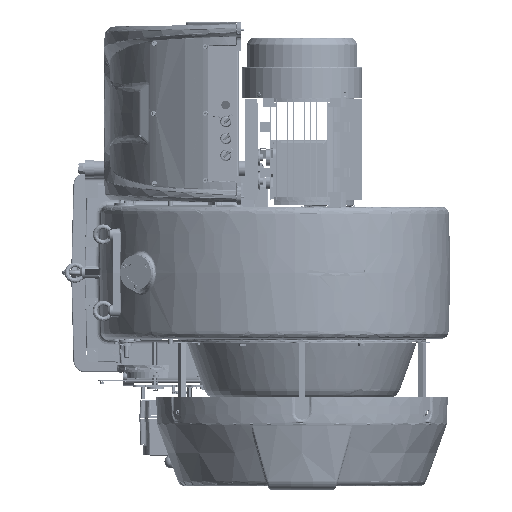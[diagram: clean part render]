
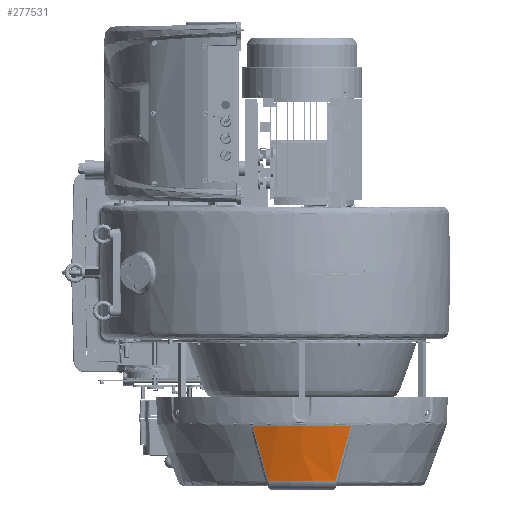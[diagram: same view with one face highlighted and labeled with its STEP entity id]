
A CAD part, left-side view. The second image highlights one B-rep face of the part: STEP entity #277531.
In plain terms, the highlighted conical face has half-angle 11 degrees and reference radius 194.38 mm.
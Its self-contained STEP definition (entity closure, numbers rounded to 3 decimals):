
#9513 = B_SPLINE_CURVE_WITH_KNOTS ( 'NONE', 3,
 ( #319366, #49375, #259732, #141530 ),
 .UNSPECIFIED., .F., .F.,
 ( 4, 4 ),
 ( 0., 1. ),
 .UNSPECIFIED. ) ;
#32359 = CARTESIAN_POINT ( 'NONE',  ( 0., 0., -1342.371 ) ) ;
#32916 = EDGE_CURVE ( 'NONE', #105743, #78394, #244552, .T. ) ;
#49375 = CARTESIAN_POINT ( 'NONE',  ( -349.804, 114.58, -449.603 ) ) ;
#49965 = EDGE_CURVE ( 'NONE', #239913, #247055, #338934, .T. ) ;
#61808 = ORIENTED_EDGE ( 'NONE', *, *, #49965, .T. ) ;
#64302 = EDGE_CURVE ( 'NONE', #78394, #239913, #9513, .T. ) ;
#78394 = VERTEX_POINT ( 'NONE', #345829 ) ;
#81586 = CARTESIAN_POINT ( 'NONE',  ( -338.389, -88.294, -543.224 ) ) ;
#82882 = CARTESIAN_POINT ( 'NONE',  ( -344.981, -59.265, -543.224 ) ) ;
#93843 = EDGE_CURVE ( 'NONE', #105743, #247055, #304429, .T. ) ;
#98773 = CARTESIAN_POINT ( 'NONE',  ( -355.092, -128.553, -399.554 ) ) ;
#105743 = VERTEX_POINT ( 'NONE', #98773 ) ;
#117355 = ORIENTED_EDGE ( 'NONE', *, *, #93843, .F. ) ;
#119649 = CARTESIAN_POINT ( 'NONE',  ( -349.747, -114.429, -450.143 ) ) ;
#123509 = CARTESIAN_POINT ( 'NONE',  ( -338.389, -88.294, -543.224 ) ) ;
#141306 = CARTESIAN_POINT ( 'NONE',  ( -338.389, 88.294, -543.224 ) ) ;
#141530 = CARTESIAN_POINT ( 'NONE',  ( -338.389, 88.294, -543.224 ) ) ;
#153745 = CARTESIAN_POINT ( 'NONE',  ( -338.389, 88.294, -543.224 ) ) ;
#170055 = EDGE_LOOP ( 'NONE', ( #117355, #380918, #256128, #61808 ) ) ;
#172337 = CARTESIAN_POINT ( 'NONE',  ( -342.145, -73.9, -543.224 ) ) ;
#180335 = CONICAL_SURFACE ( 'NONE', #361900, 194.38, 0.192 ) ;
#192140 = CARTESIAN_POINT ( 'NONE',  ( 0., 0., -399.554 ) ) ;
#198441 = CARTESIAN_POINT ( 'NONE',  ( -348.768, -29.753, -543.224 ) ) ;
#222090 = DIRECTION ( 'NONE',  ( 0., 0., -1. ) ) ;
#236498 = CARTESIAN_POINT ( 'NONE',  ( -344.15, -101.008, -498.033 ) ) ;
#239913 = VERTEX_POINT ( 'NONE', #153745 ) ;
#244552 = CIRCLE ( 'NONE', #277029, 377.645 ) ;
#246510 = DIRECTION ( 'NONE',  ( 0.866, 0.5, 0. ) ) ;
#247055 = VERTEX_POINT ( 'NONE', #365130 ) ;
#251902 = DIRECTION ( 'NONE',  ( -0.866, -0.5, 0. ) ) ;
#256128 = ORIENTED_EDGE ( 'NONE', *, *, #64302, .T. ) ;
#259732 = CARTESIAN_POINT ( 'NONE',  ( -344.219, 101.16, -497.493 ) ) ;
#260795 = CARTESIAN_POINT ( 'NONE',  ( -349.719, -14.877, -543.224 ) ) ;
#277029 = AXIS2_PLACEMENT_3D ( 'NONE', #192140, #222090, #251902 ) ;
#277531 = ADVANCED_FACE ( 'NONE', ( #287289 ), #180335, .T. ) ;
#287289 = FACE_OUTER_BOUND ( 'NONE', #170055, .T. ) ;
#301375 = CARTESIAN_POINT ( 'NONE',  ( -355.092, -128.553, -399.554 ) ) ;
#304429 = B_SPLINE_CURVE_WITH_KNOTS ( 'NONE', 3,
 ( #301375, #119649, #236498, #123509 ),
 .UNSPECIFIED., .F., .F.,
 ( 4, 4 ),
 ( 0., 1. ),
 .UNSPECIFIED. ) ;
#319366 = CARTESIAN_POINT ( 'NONE',  ( -355.092, 128.553, -399.554 ) ) ;
#329653 = DIRECTION ( 'NONE',  ( 0., 0., 1. ) ) ;
#338934 = B_SPLINE_CURVE_WITH_KNOTS ( 'NONE', 3,
 ( #141306, #378750, #377492, #349002, #380052, #260795, #198441, #82882, #172337, #81586 ),
 .UNSPECIFIED., .F., .F.,
 ( 4, 2, 2, 2, 4 ),
 ( 0., 0.25, 0.5, 0.75, 1. ),
 .UNSPECIFIED. ) ;
#345829 = CARTESIAN_POINT ( 'NONE',  ( -355.092, 128.553, -399.554 ) ) ;
#349002 = CARTESIAN_POINT ( 'NONE',  ( -348.768, 29.753, -543.224 ) ) ;
#361900 = AXIS2_PLACEMENT_3D ( 'NONE', #32359, #329653, #246510 ) ;
#365130 = CARTESIAN_POINT ( 'NONE',  ( -338.389, -88.294, -543.224 ) ) ;
#377492 = CARTESIAN_POINT ( 'NONE',  ( -344.981, 59.265, -543.224 ) ) ;
#378750 = CARTESIAN_POINT ( 'NONE',  ( -342.145, 73.9, -543.224 ) ) ;
#380052 = CARTESIAN_POINT ( 'NONE',  ( -349.719, 14.877, -543.224 ) ) ;
#380918 = ORIENTED_EDGE ( 'NONE', *, *, #32916, .T. ) ;
